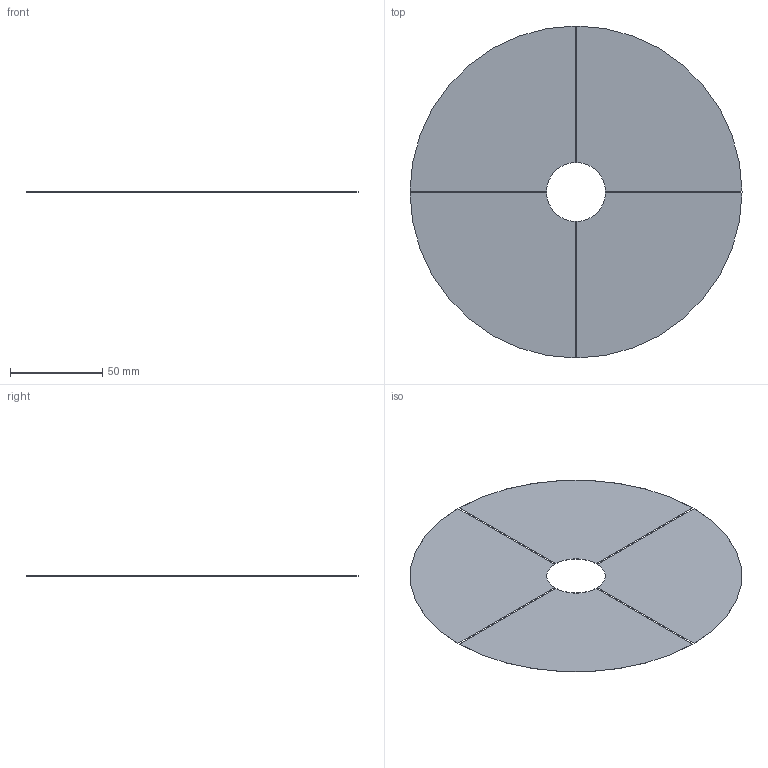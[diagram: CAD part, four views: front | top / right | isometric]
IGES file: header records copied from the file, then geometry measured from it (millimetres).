
Global section: file name: No Iges File Name specified; native system: AutoDesk Inventor R11.0; preprocessor: AutoDesk Inventor Iges Exporter R11.0; author: No Author specified; organization: No Organization specified; date: 20061017.140518; units: millimetre
Bounding box: 180 x 180 x 0.05 mm (x, y, z)
Volume: 1217.3 mm3; surface area: 48755.8 mm2
Topology: 4 solids, 4 shells, 24 faces, 48 edges, 32 vertices
Faces by surface type: plane 16, revolution 4, cylinder 4
